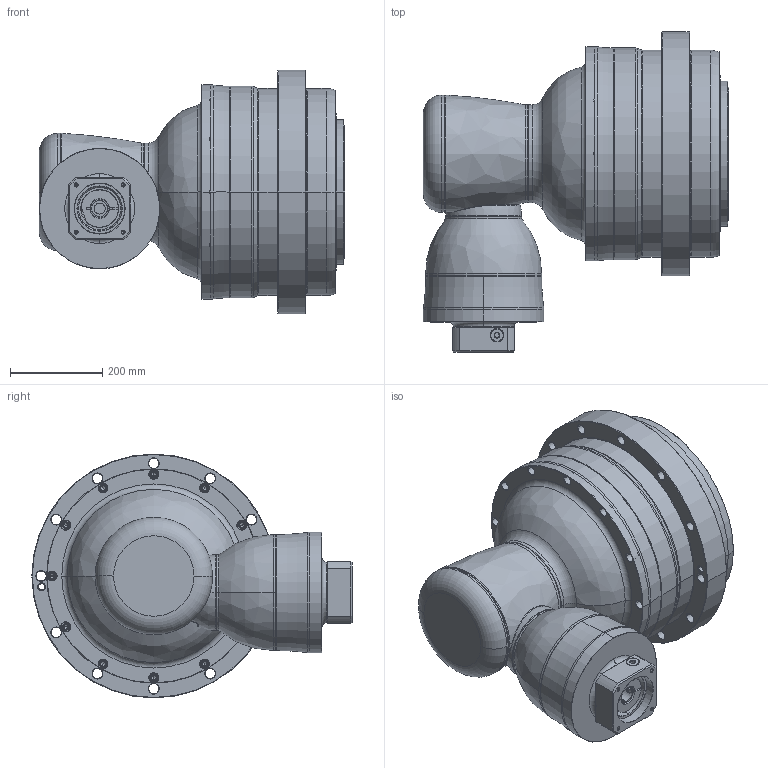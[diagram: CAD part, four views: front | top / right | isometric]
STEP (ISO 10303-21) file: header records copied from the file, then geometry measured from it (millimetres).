
FILE_DESCRIPTION((''),'2;1');
FILE_NAME('AHK450_4ST_35-P0409800101_ASM','2016-08-30T',('d01943'),(''),'PRO/ENGINEER BY PARAMETRIC TECHNOLOGY CORPORATION, 2008410','PRO/ENGINEER BY PARAMETRIC TECHNOLOGY CORPORATION, 2008410','');
FILE_SCHEMA(('CONFIG_CONTROL_DESIGN'));
Length unit declared in the file: millimetre
Products named in the file (12): P1008700002; P1821200001; P0276200003; P0357200003; P1315700001; P1007700001; P1317700101; P0409800101; P0503800012; P0912601201; 21711422019; AHK450_4ST_35-P0409800101_ASM
Assembly tree (11 placements, depth 2):
  AHK450_4ST_35-P0409800101_ASM
    P1008700002
    P1821200001
    P0276200003
    P0357200003
    P1315700001
    P1007700001
    P1317700101
    P0409800101
    P0503800012
    P0912601201
    21711422019
Bounding box: 663.5 x 696 x 530 mm (x, y, z)
Volume: 76356729.7 mm3; surface area: 2648676.3 mm2
Topology: 12 solids, 12 shells, 909 faces, 2021 edges, 1163 vertices
Faces by surface type: cone 332, cylinder 315, plane 116, torus 114, bspline 30, sphere 2
Entity records: 32535 total; most frequent: CARTESIAN_POINT 11792, DIRECTION 4775, ORIENTED_EDGE 3926, AXIS2_PLACEMENT_3D 2030, EDGE_CURVE 1963, VERTEX_POINT 1163, CIRCLE 1128, EDGE_LOOP 1088
